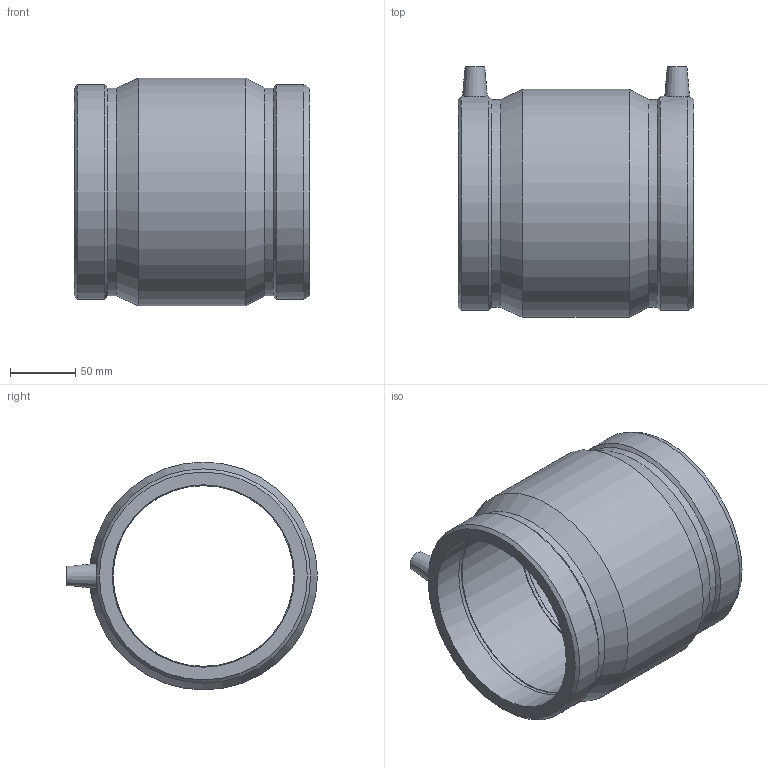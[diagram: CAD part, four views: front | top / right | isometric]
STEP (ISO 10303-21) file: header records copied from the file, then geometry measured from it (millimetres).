
FILE_DESCRIPTION(/* description */ ('PLASSON COUPLER 140 PN25'),/* implementation_level */ '2;1');
FILE_NAME(/* name */ 'C:\Users\comp2\Dropbox\99-16-3568-Processing\ElectroFusion Fittings\450104\stp\450104140.stp',/* time_stamp */ '2022-07-01T12:48:25+01:00',/* author */ ('KIM'),/* organization */ (''),/* preprocessor_version */ 'ST-DEVELOPER v17.2',/* originating_system */ 'Autodesk Inventor 2019',/* authorisation */ '');
FILE_SCHEMA (('AUTOMOTIVE_DESIGN { 1 0 10303 214 3 1 1 }'));
Length unit declared in the file: millimetre
Products named in the file (1): 450104140
Bounding box: 181 x 192.5 x 175 mm (x, y, z)
Volume: 1297090.9 mm3; surface area: 193484.9 mm2
Topology: 1 solids, 1 shells, 38 faces, 91 edges, 64 vertices
Faces by surface type: cylinder 14, plane 12, cone 12
Full cylindrical faces by diameter (mm): 4 x2, 10 x2, 138.6 x1, 140 x4, 159.565 x2, 164.5 x2, 175 x1
Entity records: 1274 total; most frequent: CARTESIAN_POINT 288, DIRECTION 218, ORIENTED_EDGE 182, AXIS2_PLACEMENT_3D 97, EDGE_CURVE 91, VERTEX_POINT 64, CIRCLE 58, EDGE_LOOP 49
